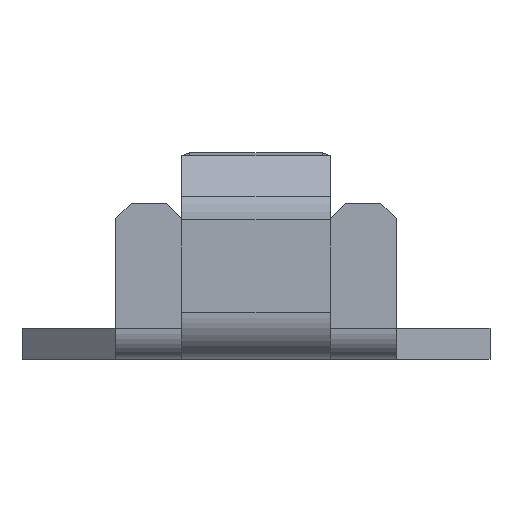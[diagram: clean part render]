
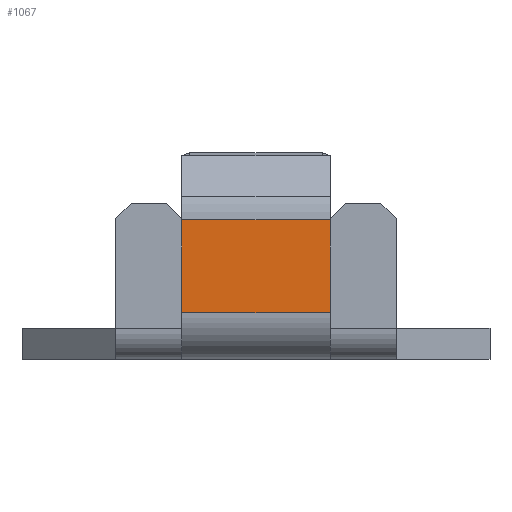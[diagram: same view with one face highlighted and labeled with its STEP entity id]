
A CAD part, front view. The second image highlights one B-rep face of the part: STEP entity #1067.
In plain terms, the highlighted planar face has unit normal (0, -1, 0).
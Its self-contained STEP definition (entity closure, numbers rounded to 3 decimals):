
#103 = CARTESIAN_POINT ( 'NONE',  ( 0.95, 0.85, 0.6 ) ) ;
#179 = VECTOR ( 'NONE', #1549, 1000. ) ;
#263 = EDGE_CURVE ( 'NONE', #569, #1082, #1466, .T. ) ;
#284 = ORIENTED_EDGE ( 'NONE', *, *, #263, .T. ) ;
#300 = PLANE ( 'NONE',  #1002 ) ;
#368 = CARTESIAN_POINT ( 'NONE',  ( -0.95, 0.85, 0.6 ) ) ;
#412 = CARTESIAN_POINT ( 'NONE',  ( 0.95, 0.85, 0.6 ) ) ;
#557 = EDGE_CURVE ( 'NONE', #1488, #973, #1762, .T. ) ;
#569 = VERTEX_POINT ( 'NONE', #982 ) ;
#636 = LINE ( 'NONE', #412, #1927 ) ;
#707 = EDGE_CURVE ( 'NONE', #1488, #569, #1576, .T. ) ;
#767 = ORIENTED_EDGE ( 'NONE', *, *, #707, .T. ) ;
#862 = CARTESIAN_POINT ( 'NONE',  ( 0.95, 0.85, 0.6 ) ) ;
#941 = VECTOR ( 'NONE', #1118, 1000. ) ;
#973 = VERTEX_POINT ( 'NONE', #103 ) ;
#982 = CARTESIAN_POINT ( 'NONE',  ( -0.95, 0.85, 1.789 ) ) ;
#1002 = AXIS2_PLACEMENT_3D ( 'NONE', #1084, #1720, #1603 ) ;
#1039 = VECTOR ( 'NONE', #1700, 1000. ) ;
#1044 = FACE_OUTER_BOUND ( 'NONE', #1378, .T. ) ;
#1067 = ADVANCED_FACE ( 'NONE', ( #1044 ), #300, .F. ) ;
#1082 = VERTEX_POINT ( 'NONE', #368 ) ;
#1084 = CARTESIAN_POINT ( 'NONE',  ( 0.95, 0.85, 0.6 ) ) ;
#1118 = DIRECTION ( 'NONE',  ( 0., 0., -1. ) ) ;
#1255 = CARTESIAN_POINT ( 'NONE',  ( 0.95, 0.85, 1.789 ) ) ;
#1299 = CARTESIAN_POINT ( 'NONE',  ( -0.95, 0.85, 0.6 ) ) ;
#1326 = ORIENTED_EDGE ( 'NONE', *, *, #557, .F. ) ;
#1378 = EDGE_LOOP ( 'NONE', ( #284, #1395, #1326, #767 ) ) ;
#1395 = ORIENTED_EDGE ( 'NONE', *, *, #1418, .F. ) ;
#1418 = EDGE_CURVE ( 'NONE', #973, #1082, #636, .T. ) ;
#1466 = LINE ( 'NONE', #1299, #941 ) ;
#1488 = VERTEX_POINT ( 'NONE', #1540 ) ;
#1540 = CARTESIAN_POINT ( 'NONE',  ( 0.95, 0.85, 1.789 ) ) ;
#1549 = DIRECTION ( 'NONE',  ( 0., 0., -1. ) ) ;
#1576 = LINE ( 'NONE', #1255, #1039 ) ;
#1603 = DIRECTION ( 'NONE',  ( 0., 0., 1. ) ) ;
#1700 = DIRECTION ( 'NONE',  ( -1., 0., 0. ) ) ;
#1720 = DIRECTION ( 'NONE',  ( 0., 1., 0. ) ) ;
#1762 = LINE ( 'NONE', #862, #179 ) ;
#1798 = DIRECTION ( 'NONE',  ( -1., 0., 0. ) ) ;
#1927 = VECTOR ( 'NONE', #1798, 1000. ) ;
